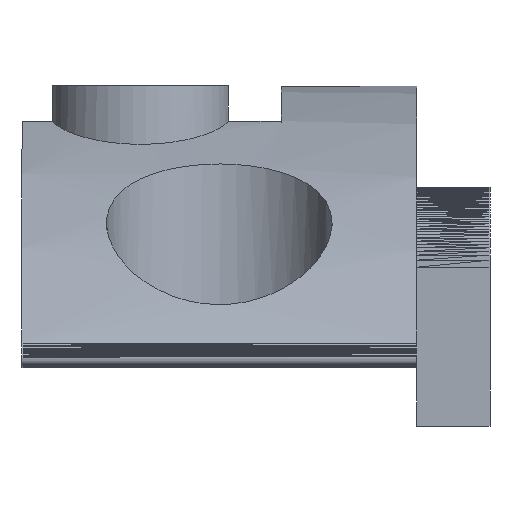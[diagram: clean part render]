
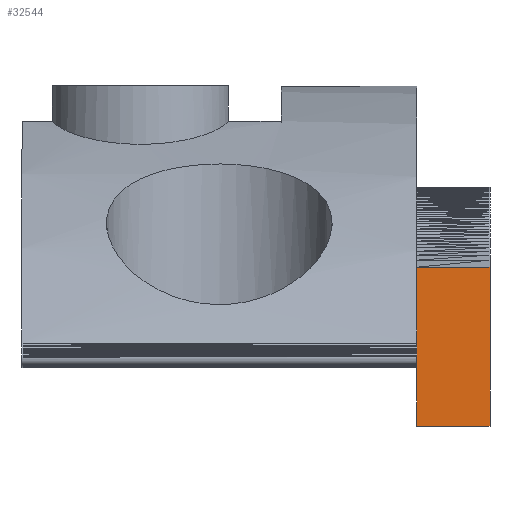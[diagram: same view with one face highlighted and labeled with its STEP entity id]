
A CAD part, left-side view. The second image highlights one B-rep face of the part: STEP entity #32544.
In plain terms, the highlighted planar face has unit normal (-1, 0, 0).
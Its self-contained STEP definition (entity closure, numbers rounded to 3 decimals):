
#3180 = PLANE('',#3181);
#3181 = AXIS2_PLACEMENT_3D('',#3182,#3183,#3184);
#3182 = CARTESIAN_POINT('',(-7.788,5.752,
    1.925));
#3183 = DIRECTION('',(0.,-1.,0.));
#3184 = DIRECTION('',(-0.,0.,1.));
#3287 = PLANE('',#3288);
#3288 = AXIS2_PLACEMENT_3D('',#3289,#3290,#3291);
#3289 = CARTESIAN_POINT('',(-7.618,4.452,2.648
    ));
#3290 = DIRECTION('',(0.,1.,0.));
#3291 = DIRECTION('',(0.,0.,-1.));
#14469 = VERTEX_POINT('',#14470);
#14470 = CARTESIAN_POINT('',(-11.363,4.452,
    -1.038));
#14477 = PLANE('',#14478);
#14478 = AXIS2_PLACEMENT_3D('',#14479,#14480,#14481);
#14479 = CARTESIAN_POINT('',(-7.618,5.102,
    -1.038));
#14480 = DIRECTION('',(0.,0.,1.));
#14481 = DIRECTION('',(0.,1.,0.));
#14496 = EDGE_CURVE('',#14469,#14497,#14499,.T.);
#14497 = VERTEX_POINT('',#14498);
#14498 = CARTESIAN_POINT('',(-11.363,5.752,
    -1.038));
#14499 = SURFACE_CURVE('',#14500,(#14504,#14511),.PCURVE_S1.);
#14500 = LINE('',#14501,#14502);
#14501 = CARTESIAN_POINT('',(-11.363,5.167,
    -1.038));
#14502 = VECTOR('',#14503,1.);
#14503 = DIRECTION('',(-0.,1.,-0.));
#14504 = PCURVE('',#14477,#14505);
#14505 = DEFINITIONAL_REPRESENTATION('',(#14506),#14510);
#14506 = LINE('',#14507,#14508);
#14507 = CARTESIAN_POINT('',(0.065,3.744));
#14508 = VECTOR('',#14509,1.);
#14509 = DIRECTION('',(1.,0.));
#14510 = ( GEOMETRIC_REPRESENTATION_CONTEXT(2) 
PARAMETRIC_REPRESENTATION_CONTEXT() REPRESENTATION_CONTEXT('2D SPACE',''
  ) );
#14511 = PCURVE('',#14512,#14517);
#14512 = PLANE('',#14513);
#14513 = AXIS2_PLACEMENT_3D('',#14514,#14515,#14516);
#14514 = CARTESIAN_POINT('',(-11.363,5.232,
    0.298));
#14515 = DIRECTION('',(-1.,-0.,-0.));
#14516 = DIRECTION('',(0.,0.,-1.));
#14517 = DEFINITIONAL_REPRESENTATION('',(#14518),#14522);
#14518 = LINE('',#14519,#14520);
#14519 = CARTESIAN_POINT('',(1.335,0.065));
#14520 = VECTOR('',#14521,1.);
#14521 = DIRECTION('',(0.,-1.));
#14522 = ( GEOMETRIC_REPRESENTATION_CONTEXT(2) 
PARAMETRIC_REPRESENTATION_CONTEXT() REPRESENTATION_CONTEXT('2D SPACE',''
  ) );
#14621 = VERTEX_POINT('',#14622);
#14622 = CARTESIAN_POINT('',(-11.363,5.752,
    0.));
#14896 = B_SPLINE_SURFACE_WITH_KNOTS('',3,3,(
    (#14897,#14898,#14899,#14900)
    ,(#14901,#14902,#14903,#14904)
    ,(#14905,#14906,#14907,#14908)
    ,(#14909,#14910,#14911,#14912
    )),.UNSPECIFIED.,.F.,.F.,.F.,(4,4),(4,4),(0.,1.),(0.,1.),
  .PIECEWISE_BEZIER_KNOTS.);
#14897 = CARTESIAN_POINT('',(-11.363,5.752,
    -1.038));
#14898 = CARTESIAN_POINT('',(-8.866,5.752,
    -0.692));
#14899 = CARTESIAN_POINT('',(-6.37,5.752,
    -0.346));
#14900 = CARTESIAN_POINT('',(-3.874,5.752,
    0.));
#14901 = CARTESIAN_POINT('',(-11.363,5.752,
    -0.692));
#14902 = CARTESIAN_POINT('',(-8.866,5.752,
    -0.346));
#14903 = CARTESIAN_POINT('',(-6.37,5.752,
    0.));
#14904 = CARTESIAN_POINT('',(-3.874,5.752,
    0.346));
#14905 = CARTESIAN_POINT('',(-11.363,5.752,
    -0.346));
#14906 = CARTESIAN_POINT('',(-8.866,5.752,
    0.));
#14907 = CARTESIAN_POINT('',(-6.37,5.752,
    0.346));
#14908 = CARTESIAN_POINT('',(-3.874,5.752,
    0.692));
#14909 = CARTESIAN_POINT('',(-11.363,5.752,
    0.));
#14910 = CARTESIAN_POINT('',(-8.866,5.752,
    0.346));
#14911 = CARTESIAN_POINT('',(-6.37,5.752,
    0.692));
#14912 = CARTESIAN_POINT('',(-3.874,5.752,
    1.038));
#27253 = EDGE_CURVE('',#14621,#27254,#27256,.T.);
#27254 = VERTEX_POINT('',#27255);
#27255 = CARTESIAN_POINT('',(-11.363,5.752,
    1.782));
#27256 = SURFACE_CURVE('',#27257,(#27261,#27268),.PCURVE_S1.);
#27257 = LINE('',#27258,#27259);
#27258 = CARTESIAN_POINT('',(-11.363,5.752,
    1.111));
#27259 = VECTOR('',#27260,1.);
#27260 = DIRECTION('',(-0.,-0.,1.));
#27261 = PCURVE('',#3180,#27262);
#27262 = DEFINITIONAL_REPRESENTATION('',(#27263),#27267);
#27263 = LINE('',#27264,#27265);
#27264 = CARTESIAN_POINT('',(-0.814,3.574));
#27265 = VECTOR('',#27266,1.);
#27266 = DIRECTION('',(1.,0.));
#27267 = ( GEOMETRIC_REPRESENTATION_CONTEXT(2) 
PARAMETRIC_REPRESENTATION_CONTEXT() REPRESENTATION_CONTEXT('2D SPACE',''
  ) );
#27268 = PCURVE('',#14512,#27269);
#27269 = DEFINITIONAL_REPRESENTATION('',(#27270),#27274);
#27270 = LINE('',#27271,#27272);
#27271 = CARTESIAN_POINT('',(-0.814,-0.52));
#27272 = VECTOR('',#27273,1.);
#27273 = DIRECTION('',(-1.,0.));
#27274 = ( GEOMETRIC_REPRESENTATION_CONTEXT(2) 
PARAMETRIC_REPRESENTATION_CONTEXT() REPRESENTATION_CONTEXT('2D SPACE',''
  ) );
#28984 = EDGE_CURVE('',#27254,#28985,#28987,.T.);
#28985 = VERTEX_POINT('',#28986);
#28986 = CARTESIAN_POINT('',(-11.363,4.452,
    1.782));
#28987 = SURFACE_CURVE('',#28988,(#28993,#29016),.PCURVE_S1.);
#28988 = B_SPLINE_CURVE_WITH_KNOTS('',3,(#28989,#28990,#28991,#28992),
  .UNSPECIFIED.,.F.,.F.,(4,4),(0.,1.),.PIECEWISE_BEZIER_KNOTS.);
#28989 = CARTESIAN_POINT('',(-11.363,5.752,
    1.782));
#28990 = CARTESIAN_POINT('',(-11.363,5.319,
    1.782));
#28991 = CARTESIAN_POINT('',(-11.363,4.886,
    1.782));
#28992 = CARTESIAN_POINT('',(-11.363,4.452,
    1.782));
#28993 = PCURVE('',#28994,#29011);
#28994 = B_SPLINE_SURFACE_WITH_KNOTS('',3,3,(
    (#28995,#28996,#28997,#28998)
    ,(#28999,#29000,#29001,#29002)
    ,(#29003,#29004,#29005,#29006)
    ,(#29007,#29008,#29009,#29010
    )),.UNSPECIFIED.,.F.,.F.,.F.,(4,4),(4,4),(0.,1.),(0.,1.),
  .PIECEWISE_BEZIER_KNOTS.);
#28995 = CARTESIAN_POINT('',(-11.363,5.752,
    1.782));
#28996 = CARTESIAN_POINT('',(-11.362,5.319,
    1.824));
#28997 = CARTESIAN_POINT('',(-11.362,4.886,
    1.865));
#28998 = CARTESIAN_POINT('',(-11.361,4.452,
    1.907));
#28999 = CARTESIAN_POINT('',(-11.363,5.319,
    1.782));
#29000 = CARTESIAN_POINT('',(-11.362,4.886,
    1.824));
#29001 = CARTESIAN_POINT('',(-11.362,4.452,
    1.865));
#29002 = CARTESIAN_POINT('',(-11.361,4.019,
    1.907));
#29003 = CARTESIAN_POINT('',(-11.363,4.886,
    1.782));
#29004 = CARTESIAN_POINT('',(-11.362,4.452,
    1.824));
#29005 = CARTESIAN_POINT('',(-11.362,4.019,
    1.865));
#29006 = CARTESIAN_POINT('',(-11.361,3.586,
    1.907));
#29007 = CARTESIAN_POINT('',(-11.363,4.452,
    1.782));
#29008 = CARTESIAN_POINT('',(-11.362,4.019,
    1.824));
#29009 = CARTESIAN_POINT('',(-11.362,3.586,
    1.865));
#29010 = CARTESIAN_POINT('',(-11.361,3.152,
    1.907));
#29011 = DEFINITIONAL_REPRESENTATION('',(#29012),#29015);
#29012 = B_SPLINE_CURVE_WITH_KNOTS('',1,(#29013,#29014),.UNSPECIFIED.,
  .F.,.F.,(2,2),(0.,1.),.PIECEWISE_BEZIER_KNOTS.);
#29013 = CARTESIAN_POINT('',(0.,0.));
#29014 = CARTESIAN_POINT('',(1.,0.));
#29015 = ( GEOMETRIC_REPRESENTATION_CONTEXT(2) 
PARAMETRIC_REPRESENTATION_CONTEXT() REPRESENTATION_CONTEXT('2D SPACE',''
  ) );
#29016 = PCURVE('',#14512,#29017);
#29017 = DEFINITIONAL_REPRESENTATION('',(#29018),#29023);
#29018 = B_SPLINE_CURVE_WITH_KNOTS('',3,(#29019,#29020,#29021,#29022),
  .UNSPECIFIED.,.F.,.F.,(4,4),(0.,1.),.PIECEWISE_BEZIER_KNOTS.);
#29019 = CARTESIAN_POINT('',(-1.484,-0.52));
#29020 = CARTESIAN_POINT('',(-1.484,-0.087));
#29021 = CARTESIAN_POINT('',(-1.484,0.347));
#29022 = CARTESIAN_POINT('',(-1.484,0.78));
#29023 = ( GEOMETRIC_REPRESENTATION_CONTEXT(2) 
PARAMETRIC_REPRESENTATION_CONTEXT() REPRESENTATION_CONTEXT('2D SPACE',''
  ) );
#32544 = ADVANCED_FACE('',(#32545),#14512,.T.);
#32545 = FACE_BOUND('',#32546,.T.);
#32546 = EDGE_LOOP('',(#32547,#32548,#32549,#32571,#32572));
#32547 = ORIENTED_EDGE('',*,*,#28984,.F.);
#32548 = ORIENTED_EDGE('',*,*,#27253,.F.);
#32549 = ORIENTED_EDGE('',*,*,#32550,.T.);
#32550 = EDGE_CURVE('',#14621,#14497,#32551,.T.);
#32551 = SURFACE_CURVE('',#32552,(#32557,#32565),.PCURVE_S1.);
#32552 = B_SPLINE_CURVE_WITH_KNOTS('',3,(#32553,#32554,#32555,#32556),
  .UNSPECIFIED.,.F.,.F.,(4,4),(0.,1.),.PIECEWISE_BEZIER_KNOTS.);
#32553 = CARTESIAN_POINT('',(-11.363,5.752,
    0.));
#32554 = CARTESIAN_POINT('',(-11.363,5.752,
    -0.346));
#32555 = CARTESIAN_POINT('',(-11.363,5.752,
    -0.692));
#32556 = CARTESIAN_POINT('',(-11.363,5.752,
    -1.038));
#32557 = PCURVE('',#14512,#32558);
#32558 = DEFINITIONAL_REPRESENTATION('',(#32559),#32564);
#32559 = B_SPLINE_CURVE_WITH_KNOTS('',3,(#32560,#32561,#32562,#32563),
  .UNSPECIFIED.,.F.,.F.,(4,4),(0.,1.),.PIECEWISE_BEZIER_KNOTS.);
#32560 = CARTESIAN_POINT('',(0.298,-0.52));
#32561 = CARTESIAN_POINT('',(0.644,-0.52));
#32562 = CARTESIAN_POINT('',(0.99,-0.52));
#32563 = CARTESIAN_POINT('',(1.335,-0.52));
#32564 = ( GEOMETRIC_REPRESENTATION_CONTEXT(2) 
PARAMETRIC_REPRESENTATION_CONTEXT() REPRESENTATION_CONTEXT('2D SPACE',''
  ) );
#32565 = PCURVE('',#14896,#32566);
#32566 = DEFINITIONAL_REPRESENTATION('',(#32567),#32570);
#32567 = B_SPLINE_CURVE_WITH_KNOTS('',1,(#32568,#32569),.UNSPECIFIED.,
  .F.,.F.,(2,2),(0.,1.),.PIECEWISE_BEZIER_KNOTS.);
#32568 = CARTESIAN_POINT('',(1.,0.));
#32569 = CARTESIAN_POINT('',(0.,0.));
#32570 = ( GEOMETRIC_REPRESENTATION_CONTEXT(2) 
PARAMETRIC_REPRESENTATION_CONTEXT() REPRESENTATION_CONTEXT('2D SPACE',''
  ) );
#32571 = ORIENTED_EDGE('',*,*,#14496,.F.);
#32572 = ORIENTED_EDGE('',*,*,#32573,.T.);
#32573 = EDGE_CURVE('',#14469,#28985,#32574,.T.);
#32574 = SURFACE_CURVE('',#32575,(#32579,#32586),.PCURVE_S1.);
#32575 = LINE('',#32576,#32577);
#32576 = CARTESIAN_POINT('',(-11.363,4.452,
    1.473));
#32577 = VECTOR('',#32578,1.);
#32578 = DIRECTION('',(-0.,-0.,1.));
#32579 = PCURVE('',#14512,#32580);
#32580 = DEFINITIONAL_REPRESENTATION('',(#32581),#32585);
#32581 = LINE('',#32582,#32583);
#32582 = CARTESIAN_POINT('',(-1.175,0.78));
#32583 = VECTOR('',#32584,1.);
#32584 = DIRECTION('',(-1.,0.));
#32585 = ( GEOMETRIC_REPRESENTATION_CONTEXT(2) 
PARAMETRIC_REPRESENTATION_CONTEXT() REPRESENTATION_CONTEXT('2D SPACE',''
  ) );
#32586 = PCURVE('',#3287,#32587);
#32587 = DEFINITIONAL_REPRESENTATION('',(#32588),#32592);
#32588 = LINE('',#32589,#32590);
#32589 = CARTESIAN_POINT('',(1.175,3.744));
#32590 = VECTOR('',#32591,1.);
#32591 = DIRECTION('',(-1.,0.));
#32592 = ( GEOMETRIC_REPRESENTATION_CONTEXT(2) 
PARAMETRIC_REPRESENTATION_CONTEXT() REPRESENTATION_CONTEXT('2D SPACE',''
  ) );
